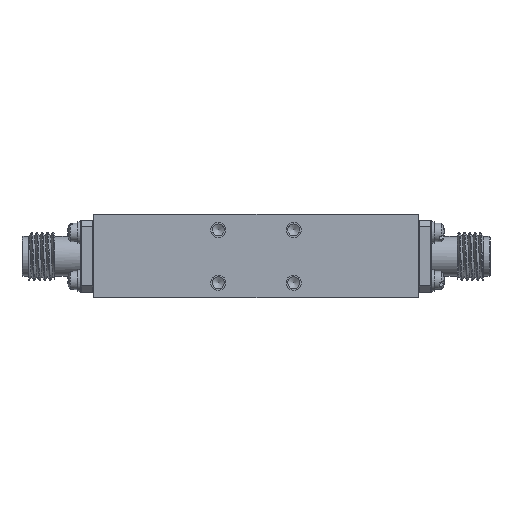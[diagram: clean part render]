
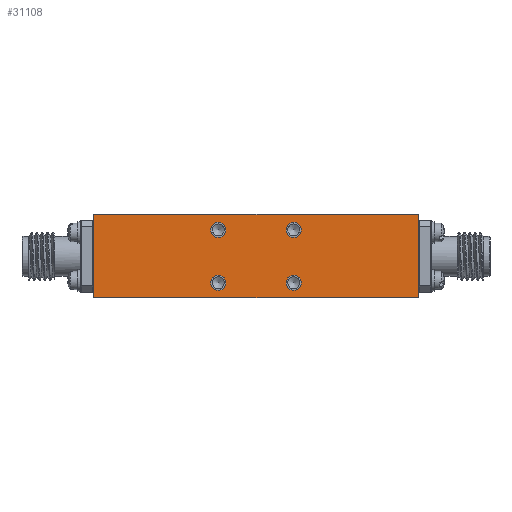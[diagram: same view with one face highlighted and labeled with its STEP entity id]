
A CAD part, front view. The second image highlights one B-rep face of the part: STEP entity #31108.
In plain terms, the highlighted planar face has unit normal (0, -1, 0).
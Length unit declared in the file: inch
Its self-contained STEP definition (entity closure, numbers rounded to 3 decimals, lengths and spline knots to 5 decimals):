
#513 = VECTOR ( 'NONE', #26479, 39.37008 ) ;
#964 = CARTESIAN_POINT ( 'NONE',  ( 1.0435, 0., -0.17737 ) ) ;
#1999 = FACE_OUTER_BOUND ( 'NONE', #27720, .T. ) ;
#2211 = EDGE_LOOP ( 'NONE', ( #50345 ) ) ;
#2367 = DIRECTION ( 'NONE',  ( 0., 0., -1. ) ) ;
#2835 = VECTOR ( 'NONE', #32910, 39.37008 ) ;
#3033 = CARTESIAN_POINT ( 'NONE',  ( 1.693, 0., -0.2165 ) ) ;
#4545 = ORIENTED_EDGE ( 'NONE', *, *, #18596, .F. ) ;
#5605 = ORIENTED_EDGE ( 'NONE', *, *, #8448, .F. ) ;
#5624 = FACE_BOUND ( 'NONE', #11179, .T. ) ;
#5863 = CARTESIAN_POINT ( 'NONE',  ( 0.6495, 0., 0.138 ) ) ;
#6186 = PLANE ( 'NONE',  #40843 ) ;
#6301 = CIRCLE ( 'NONE', #51291, 0.03937 ) ;
#6460 = CARTESIAN_POINT ( 'NONE',  ( 0., 0., 0.2165 ) ) ;
#8134 = CARTESIAN_POINT ( 'NONE',  ( 0., 0., 0.2165 ) ) ;
#8448 = EDGE_CURVE ( 'NONE', #48910, #53685, #8966, .T. ) ;
#8966 = LINE ( 'NONE', #29669, #48081 ) ;
#11125 = VERTEX_POINT ( 'NONE', #15824 ) ;
#11179 = EDGE_LOOP ( 'NONE', ( #23895 ) ) ;
#11184 = EDGE_CURVE ( 'NONE', #12143, #48910, #52157, .T. ) ;
#12143 = VERTEX_POINT ( 'NONE', #46622 ) ;
#13985 = CARTESIAN_POINT ( 'NONE',  ( 1.693, 0., 0.2165 ) ) ;
#14386 = CARTESIAN_POINT ( 'NONE',  ( 0., 0., 0.2165 ) ) ;
#14893 = CARTESIAN_POINT ( 'NONE',  ( 0.6495, 0., -0.138 ) ) ;
#15824 = CARTESIAN_POINT ( 'NONE',  ( 0.6495, 0., 0.09863 ) ) ;
#16711 = EDGE_CURVE ( 'NONE', #26819, #26819, #6301, .T. ) ;
#16976 = EDGE_LOOP ( 'NONE', ( #4545 ) ) ;
#18462 = ORIENTED_EDGE ( 'NONE', *, *, #39588, .T. ) ;
#18596 = EDGE_CURVE ( 'NONE', #11125, #11125, #41737, .T. ) ;
#18924 = FACE_BOUND ( 'NONE', #16976, .T. ) ;
#20932 = AXIS2_PLACEMENT_3D ( 'NONE', #51892, #27303, #26760 ) ;
#21537 = VERTEX_POINT ( 'NONE', #38397 ) ;
#21809 = EDGE_CURVE ( 'NONE', #21537, #21537, #25408, .T. ) ;
#21837 = AXIS2_PLACEMENT_3D ( 'NONE', #39427, #40238, #2367 ) ;
#22208 = DIRECTION ( 'NONE',  ( 0., 1., 0. ) ) ;
#23895 = ORIENTED_EDGE ( 'NONE', *, *, #16711, .F. ) ;
#25239 = DIRECTION ( 'NONE',  ( 0., 0., -1. ) ) ;
#25408 = CIRCLE ( 'NONE', #21837, 0.03937 ) ;
#26479 = DIRECTION ( 'NONE',  ( 1., 0., 0. ) ) ;
#26760 = DIRECTION ( 'NONE',  ( 0., 0., -1. ) ) ;
#26819 = VERTEX_POINT ( 'NONE', #47835 ) ;
#26859 = DIRECTION ( 'NONE',  ( 0., -1., 0. ) ) ;
#27303 = DIRECTION ( 'NONE',  ( 0., -1., 0. ) ) ;
#27720 = EDGE_LOOP ( 'NONE', ( #51867, #5605, #53151, #18462 ) ) ;
#29399 = DIRECTION ( 'NONE',  ( 0., 0., -1. ) ) ;
#29644 = LINE ( 'NONE', #8134, #31025 ) ;
#29669 = CARTESIAN_POINT ( 'NONE',  ( 1.693, 0., 0.2165 ) ) ;
#30799 = EDGE_CURVE ( 'NONE', #42939, #53685, #54435, .T. ) ;
#31025 = VECTOR ( 'NONE', #25239, 39.37008 ) ;
#31048 = FACE_BOUND ( 'NONE', #2211, .T. ) ;
#31108 = ADVANCED_FACE ( 'NONE', ( #18924, #5624, #31048, #43475, #1999 ), #6186, .F. ) ;
#31693 = DIRECTION ( 'NONE',  ( 0., -1., 0. ) ) ;
#32910 = DIRECTION ( 'NONE',  ( 1., 0., 0. ) ) ;
#36475 = AXIS2_PLACEMENT_3D ( 'NONE', #5863, #26859, #48143 ) ;
#38397 = CARTESIAN_POINT ( 'NONE',  ( 1.0435, 0., 0.09863 ) ) ;
#39427 = CARTESIAN_POINT ( 'NONE',  ( 1.0435, 0., 0.138 ) ) ;
#39588 = EDGE_CURVE ( 'NONE', #12143, #42939, #29644, .T. ) ;
#40238 = DIRECTION ( 'NONE',  ( 0., -1., 0. ) ) ;
#40843 = AXIS2_PLACEMENT_3D ( 'NONE', #6460, #22208, #48453 ) ;
#41199 = CIRCLE ( 'NONE', #20932, 0.03937 ) ;
#41737 = CIRCLE ( 'NONE', #36475, 0.03937 ) ;
#42004 = CARTESIAN_POINT ( 'NONE',  ( 0., 0., -0.2165 ) ) ;
#42939 = VERTEX_POINT ( 'NONE', #45470 ) ;
#43277 = VERTEX_POINT ( 'NONE', #964 ) ;
#43475 = FACE_BOUND ( 'NONE', #51395, .T. ) ;
#45470 = CARTESIAN_POINT ( 'NONE',  ( 0., 0., -0.2165 ) ) ;
#46399 = EDGE_CURVE ( 'NONE', #43277, #43277, #41199, .T. ) ;
#46622 = CARTESIAN_POINT ( 'NONE',  ( 0., 0., 0.2165 ) ) ;
#46987 = ORIENTED_EDGE ( 'NONE', *, *, #21809, .F. ) ;
#47835 = CARTESIAN_POINT ( 'NONE',  ( 0.6495, 0., -0.17737 ) ) ;
#48081 = VECTOR ( 'NONE', #29399, 39.37008 ) ;
#48143 = DIRECTION ( 'NONE',  ( 0., 0., -1. ) ) ;
#48453 = DIRECTION ( 'NONE',  ( 0., 0., 1. ) ) ;
#48551 = DIRECTION ( 'NONE',  ( 0., 0., -1. ) ) ;
#48910 = VERTEX_POINT ( 'NONE', #13985 ) ;
#50345 = ORIENTED_EDGE ( 'NONE', *, *, #46399, .F. ) ;
#51291 = AXIS2_PLACEMENT_3D ( 'NONE', #14893, #31693, #48551 ) ;
#51395 = EDGE_LOOP ( 'NONE', ( #46987 ) ) ;
#51867 = ORIENTED_EDGE ( 'NONE', *, *, #30799, .T. ) ;
#51892 = CARTESIAN_POINT ( 'NONE',  ( 1.0435, 0., -0.138 ) ) ;
#52157 = LINE ( 'NONE', #14386, #513 ) ;
#53151 = ORIENTED_EDGE ( 'NONE', *, *, #11184, .F. ) ;
#53685 = VERTEX_POINT ( 'NONE', #3033 ) ;
#54435 = LINE ( 'NONE', #42004, #2835 ) ;
